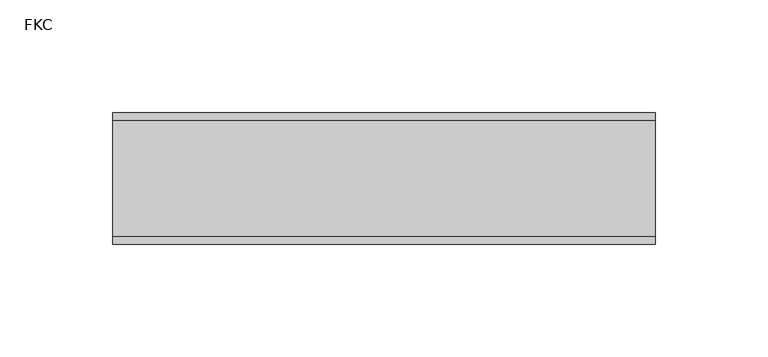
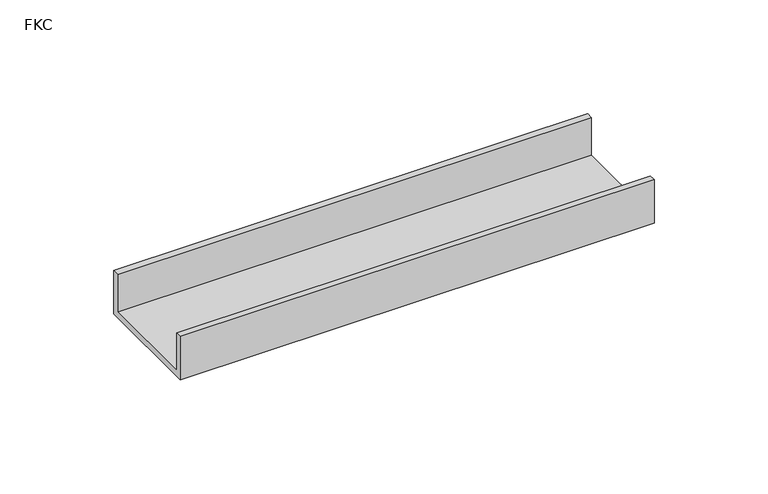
"""IFC4 building model written with IfcOpenShell, lengths in millimetres: proxy geometry, Frame-Teknion-Altos-Base_Channel : FKC."""

import ifcopenshell
import ifcopenshell.guid

model = None  # the IFC model being written
_history = None  # IfcOwnerHistory: only IFC2X3 demands one
_inside = {}  # id of a spatial element -> (the spatial element, [elements in it])
_under = {}  # id of a project, library or spatial element -> (it, [spatial elements below it])
_declared = {}  # id of a project -> (the project, [libraries it declares])
_typed = {}  # id of a type object -> (the type object, [elements of that type])
_made_of = {}  # id of a material, layer set ... -> (it, [elements and type objects made of it])


def new_model(schema):
    """Start an empty IFC model of exactly this schema.

    Asked for "IFC4X3", IfcOpenShell would pick the latest addendum, in which some entities
    have other attributes; the version numbers below select the first issue.
    IFC2X3 requires an IfcOwnerHistory on every rooted entity: one is made here for all.
    """
    global model, _history
    if schema == "IFC4X3":
        model = ifcopenshell.file(schema_version=(4, 3, 0, 0))
    else:
        model = ifcopenshell.file(schema=schema)
    _inside.clear()
    _under.clear()
    _declared.clear()
    _typed.clear()
    _made_of.clear()
    _history = None
    if model.schema == "IFC2X3":
        org = make("IfcOrganization", Name="unknown")
        user = make(
            "IfcPersonAndOrganization",
            ThePerson=make("IfcPerson", FamilyName="unknown"),
            TheOrganization=org,
        )
        app = make(
            "IfcApplication",
            ApplicationDeveloper=org,
            Version="unknown",
            ApplicationFullName="unknown",
            ApplicationIdentifier="unknown",
        )
        _history = make(
            "IfcOwnerHistory",
            OwningUser=user,
            OwningApplication=app,
            ChangeAction="ADDED",
            CreationDate=0,
        )
    return model


def make(cls, **values):
    """One entity of the class cls with the attributes given. An attribute that is None is left unset."""
    return model.create_entity(
        cls, **{name: value for name, value in values.items() if value is not None}
    )


def rooted(cls, **values):
    """An entity with a GlobalId (a new one), such as an element, a storey or a relation."""
    return make(cls, GlobalId=ifcopenshell.guid.new(), OwnerHistory=_history, **values)


def si_unit(unit_type, name, prefix=None):
    """IfcSIUnit, for example si_unit("LENGTHUNIT", "METRE", prefix="MILLI")."""
    return make("IfcSIUnit", UnitType=unit_type, Prefix=prefix, Name=name)


def assignment(units):
    """IfcUnitAssignment: the units of a project."""
    return None if units is None else make("IfcUnitAssignment", Units=units)


def point(xyz):
    """IfcCartesianPoint."""
    return None if xyz is None else make("IfcCartesianPoint", Coordinates=xyz)


def direction(xyz):
    """IfcDirection."""
    return None if xyz is None else make("IfcDirection", DirectionRatios=xyz)


def frame(location, z_axis=None, x_axis=None):
    """IfcAxis2Placement3D, a coordinate frame: its origin and axes. An axis left out is left unset."""
    return make(
        "IfcAxis2Placement3D",
        Location=point(location),
        Axis=direction(z_axis),
        RefDirection=direction(x_axis),
    )


def origin():
    """The frame at (0, 0, 0) with its axes left unset."""
    return frame((0.0, 0.0, 0.0))


def place(relative_to, where):
    """IfcLocalPlacement: puts the frame where relative to a parent placement (None: the world)."""
    return make(
        "IfcLocalPlacement", PlacementRelTo=relative_to, RelativePlacement=where
    )


def context(
    kind, dimensions, precision=None, world=None, true_north=None, identifier=None
):
    """IfcGeometricRepresentationContext, for example the 3D "Model" context."""
    return make(
        "IfcGeometricRepresentationContext",
        ContextIdentifier=identifier,
        ContextType=kind,
        CoordinateSpaceDimension=dimensions,
        Precision=precision,
        WorldCoordinateSystem=world,
        TrueNorth=true_north,
    )


def project(units=None, contexts=None):
    """IfcProject with its units and contexts."""
    return rooted(
        "IfcProject",
        Name="project",
        RepresentationContexts=contexts,
        UnitsInContext=assignment(units),
    )


def spatial(cls, under=None, at=None, **own):
    """A site, building, storey or space (cls), placed at a placement, below another one or the project."""
    s = rooted(cls, ObjectPlacement=at, **own)
    if under is not None:
        _under.setdefault(under.id(), (under, []))[1].append(s)
    return s


def polyline(points):
    """IfcPolyline through the points."""
    return make("IfcPolyline", Points=[point(p) for p in points])


def outline(outer, holes=None, kind="AREA"):
    """IfcArbitraryClosedProfileDef: a profile drawn as a closed curve; with holes, ...WithVoids."""
    if holes is None:
        return make("IfcArbitraryClosedProfileDef", ProfileType=kind, OuterCurve=outer)
    return make(
        "IfcArbitraryProfileDefWithVoids",
        ProfileType=kind,
        OuterCurve=outer,
        InnerCurves=holes,
    )


def extrude(swept, where, along, depth):
    """IfcExtrudedAreaSolid: the profile swept, set in the frame where, extruded along a direction by depth."""
    return make(
        "IfcExtrudedAreaSolid",
        SweptArea=swept,
        Position=where,
        ExtrudedDirection=direction(along),
        Depth=depth,
    )


def shape(context_of_items, identifier, shape_type, items):
    """IfcShapeRepresentation: the items that make up one representation, for example the "Body"."""
    return make(
        "IfcShapeRepresentation",
        ContextOfItems=context_of_items,
        RepresentationIdentifier=identifier,
        RepresentationType=shape_type,
        Items=items,
    )


def source(mapping_origin, context_of_items, identifier, shape_type, items):
    """IfcRepresentationMap: a shape defined once, which mapped items show again and again."""
    return make(
        "IfcRepresentationMap",
        MappingOrigin=mapping_origin,
        MappedRepresentation=shape(context_of_items, identifier, shape_type, items),
    )


def transform(
    local_origin,
    x_axis=None,
    y_axis=None,
    z_axis=None,
    scale=None,
    scale2=None,
    scale3=None,
    uniform=True,
):
    """IfcCartesianTransformationOperator3D, or its non-uniform kind. x_axis, y_axis, z_axis: its Axis1, 2, 3."""
    if uniform:
        return make(
            "IfcCartesianTransformationOperator3D",
            Axis1=direction(x_axis),
            Axis2=direction(y_axis),
            LocalOrigin=point(local_origin),
            Scale=scale,
            Axis3=direction(z_axis),
        )
    return make(
        "IfcCartesianTransformationOperator3DnonUniform",
        Axis1=direction(x_axis),
        Axis2=direction(y_axis),
        LocalOrigin=point(local_origin),
        Scale=scale,
        Axis3=direction(z_axis),
        Scale2=scale2,
        Scale3=scale3,
    )


def mapped(mapping_source, mapping_target):
    """IfcMappedItem: shows the shape of a source again, moved by a transform."""
    return make(
        "IfcMappedItem", MappingSource=mapping_source, MappingTarget=mapping_target
    )


def made_of(thing, what):
    """Note that an element or type object is made of a material, layer set ...; save() writes the relation."""
    if what is not None:
        _made_of.setdefault(what.id(), (what, []))[1].append(thing)
    return thing


def element(
    cls,
    number,
    at=None,
    inside=None,
    cuts=None,
    type_object=None,
    material=None,
    context=None,
    identifier="Body",
    shape_type=None,
    held_by="IfcProductDefinitionShape",
    body=None,
    shapes=None,
    **own,
):
    """One element of the class cls, such as IfcWall. Its Tag is "e" and its number.

    at: its placement. inside: the storey or other place that contains it. cuts: it is an
    opening in that element (IfcRelVoidsElement). A single representation is given by context,
    identifier, shape_type and body (its items); several are given by shapes. held_by: the class
    of the entity that holds the representations. save() writes the other relations.
    """
    e = rooted(cls, Tag="e%d" % number, ObjectPlacement=at, **own)
    if body is not None:
        shapes = [shape(context, identifier, shape_type, body)]
    if shapes is not None:
        e.Representation = make(held_by, Representations=shapes)
    if inside is not None:
        _inside.setdefault(inside.id(), (inside, []))[1].append(e)
    if cuts is not None:
        rooted(
            "IfcRelVoidsElement", RelatingBuildingElement=cuts, RelatedOpeningElement=e
        )
    if type_object is not None:
        _typed.setdefault(type_object.id(), (type_object, []))[1].append(e)
    return made_of(e, material)


def aggregate(whole, parts):
    """IfcRelAggregates: a whole, such as a stair, and the parts it consists of."""
    return rooted("IfcRelAggregates", RelatingObject=whole, RelatedObjects=parts)


def save(model, path):
    """Write the relations noted so far, then the file.

    IfcRelAggregates (storeys below a building ...), IfcRelContainedInSpatialStructure (elements
    in a storey), IfcRelDefinesByType, IfcRelAssociatesMaterial and IfcRelDeclares: one each for
    every whole, place, type object, material and project.
    """
    for whole, parts in _under.values():
        aggregate(whole, parts)
    for where, things in _inside.values():
        rooted(
            "IfcRelContainedInSpatialStructure",
            RelatedElements=things,
            RelatingStructure=where,
        )
    for kind, things in _typed.values():
        rooted("IfcRelDefinesByType", RelatedObjects=things, RelatingType=kind)
    for what, things in _made_of.values():
        rooted("IfcRelAssociatesMaterial", RelatedObjects=things, RelatingMaterial=what)
    for by, libraries in _declared.values():
        rooted("IfcRelDeclares", RelatingContext=by, RelatedDefinitions=libraries)
    model.write(path)


def fkc_8072fc11(model_context):
    return source(origin(), model_context, "Body", "SweptSolid", [
        extrude(outline(polyline([(-29.0214844, 23.3164062), (-25.8464844, 23.3164062), (-25.8464844, 3.175), (25.8464844, 3.175), (25.8464844, 23.3164062), (29.0214844, 23.3164062), (29.0214844, 0.0), (-29.0214844, 0.0), (-29.0214844, 23.3164062)])), frame((-120.0050781, 0.0, 0.0), z_axis=(1.0, 0.0, 0.0), x_axis=(0.0, 1.0, 0.0)), (0.0, 0.0, 1.0), 240.0101562),
    ])


if __name__ == "__main__":
    model = new_model("IFC4")
    model_context = context("Model", 3, world=origin())
    ifc_project = project(units=[si_unit("LENGTHUNIT", "METRE", prefix="MILLI")], contexts=[model_context])
    site = spatial("IfcSite", under=ifc_project)
    building = spatial("IfcBuilding", under=site)
    placement = place(None, origin())
    fkc_shape = fkc_8072fc11(model_context)
    element("IfcBuildingElementProxy", 1, Name="Frame-Teknion-Altos-Base_Channel : FKC", ObjectType="Frame-Teknion-Altos-Base_Channel : FKC", at=placement, inside=building, context=model_context, shape_type="MappedRepresentation", body=[
        mapped(fkc_shape, transform((0.0, 0.0, 0.0), x_axis=(1.0, 0.0, 0.0), y_axis=(0.0, 1.0, 0.0), z_axis=(0.0, 0.0, 1.0))),
    ])
    save(model, "model.ifc")
